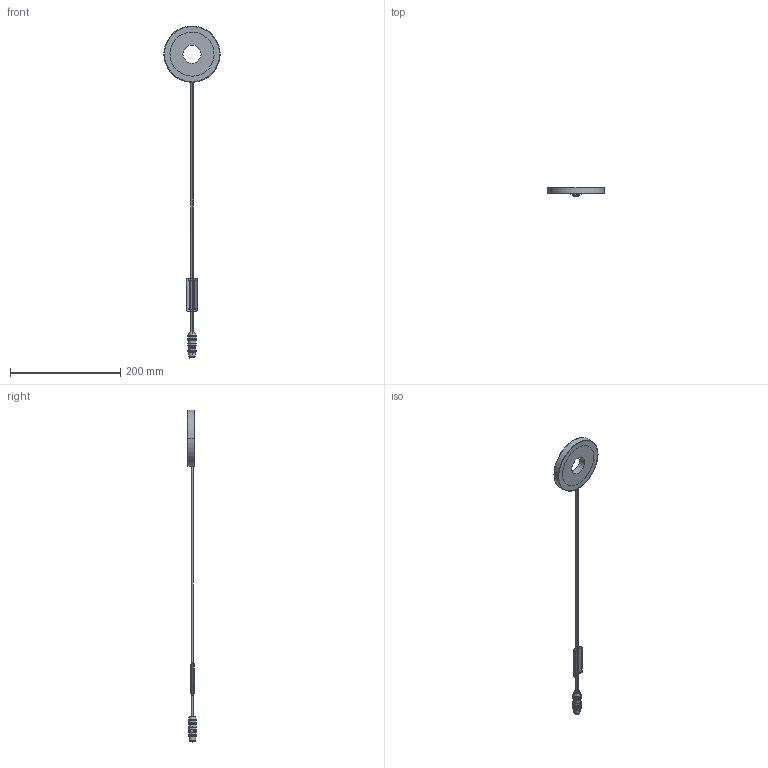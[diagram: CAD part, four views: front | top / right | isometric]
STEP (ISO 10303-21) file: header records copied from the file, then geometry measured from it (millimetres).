
FILE_DESCRIPTION (( 'STEP AP203' ), '1' );
FILE_NAME ('CV-FR-102X33#-M12(IMC-FR-102X33#-M).STEP', '2024-04-20T09:19:45', ( '' ), ( '' ), 'SwSTEP 2.0', 'SolidWorks 2023', '' );
FILE_SCHEMA (( 'CONFIG_CONTROL_DESIGN' ));
Length unit declared in the file: millimetre
Products named in the file (1): CV-FR-102X33#-M12(IMC-FR-102X33#-M)
Bounding box: 102 x 16.65 x 602 mm (x, y, z)
Volume: 100271.3 mm3; surface area: 31410.3 mm2
Topology: 2 solids, 4 shells, 841 faces, 2342 edges, 1526 vertices
Faces by surface type: cylinder 335, plane 313, bspline 122, cone 47, torus 24
Entity records: 30787 total; most frequent: CARTESIAN_POINT 9682, ORIENTED_EDGE 4660, DIRECTION 4100, EDGE_CURVE 2330, VERTEX_POINT 1526, AXIS2_PLACEMENT_3D 1486, VECTOR 1128, LINE 1128
